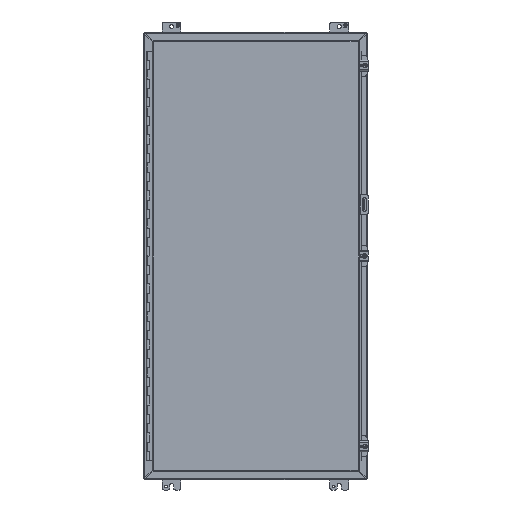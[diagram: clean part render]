
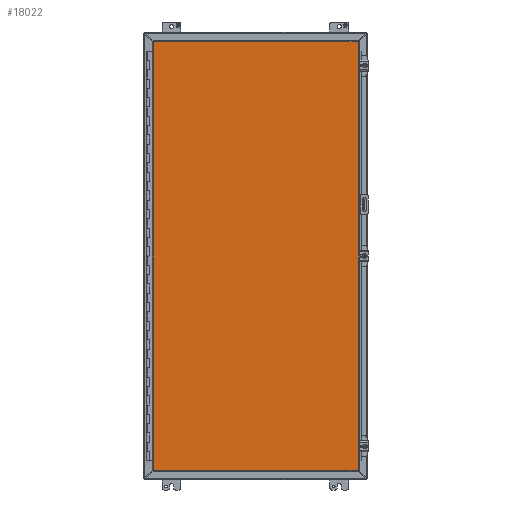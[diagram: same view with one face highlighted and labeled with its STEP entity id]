
A CAD part, front view. The second image highlights one B-rep face of the part: STEP entity #18022.
In plain terms, the highlighted planar face has unit normal (0, -1, 0).
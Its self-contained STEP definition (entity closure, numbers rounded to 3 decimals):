
#1032=LINE('',#26386,#2809);
#1033=LINE('',#26389,#2810);
#1034=LINE('',#26391,#2811);
#1035=LINE('',#26393,#2812);
#2809=VECTOR('',#21260,1000.);
#2810=VECTOR('',#21261,1000.);
#2811=VECTOR('',#21262,1000.);
#2812=VECTOR('',#21263,1000.);
#5606=ORIENTED_EDGE('',*,*,#10496,.T.);
#5607=ORIENTED_EDGE('',*,*,#10497,.T.);
#5608=ORIENTED_EDGE('',*,*,#10498,.T.);
#5609=ORIENTED_EDGE('',*,*,#10499,.T.);
#10496=EDGE_CURVE('',#13002,#13003,#1032,.T.);
#10497=EDGE_CURVE('',#13003,#13004,#1033,.T.);
#10498=EDGE_CURVE('',#13004,#13005,#1034,.T.);
#10499=EDGE_CURVE('',#13005,#13002,#1035,.T.);
#13002=VERTEX_POINT('',#26387);
#13003=VERTEX_POINT('',#26388);
#13004=VERTEX_POINT('',#26390);
#13005=VERTEX_POINT('',#26392);
#15194=EDGE_LOOP('',(#5606,#5607,#5608,#5609));
#16303=FACE_BOUND('',#15194,.T.);
#17326=PLANE('',#19236);
#18022=ADVANCED_FACE('',(#16303),#17326,.T.);
#19236=AXIS2_PLACEMENT_3D('',#26385,#21258,#21259);
#21258=DIRECTION('',(0.,-1.,0.));
#21259=DIRECTION('',(0.,0.,-1.));
#21260=DIRECTION('',(0.,0.,-1.));
#21261=DIRECTION('',(1.,0.,0.));
#21262=DIRECTION('',(0.,0.,1.));
#21263=DIRECTION('',(-1.,0.,0.));
#26385=CARTESIAN_POINT('',(-279.044,0.,-584.06));
#26386=CARTESIAN_POINT('',(-279.044,0.,584.06));
#26387=CARTESIAN_POINT('',(-279.044,0.,584.06));
#26388=CARTESIAN_POINT('',(-279.044,0.,-584.06));
#26389=CARTESIAN_POINT('',(-279.044,0.,-584.06));
#26390=CARTESIAN_POINT('',(279.044,0.,-584.06));
#26391=CARTESIAN_POINT('',(279.044,0.,-584.06));
#26392=CARTESIAN_POINT('',(279.044,0.,584.06));
#26393=CARTESIAN_POINT('',(279.044,0.,584.06));
